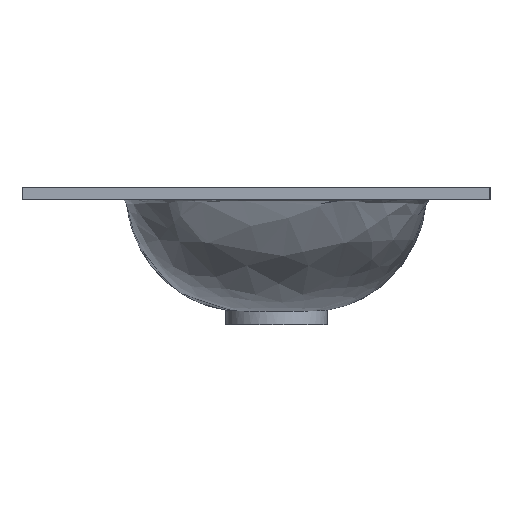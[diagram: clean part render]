
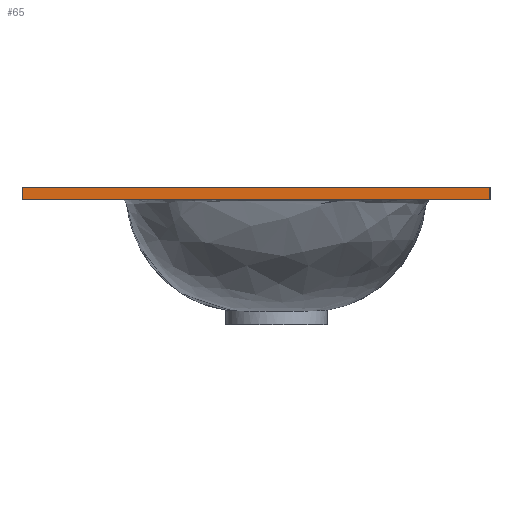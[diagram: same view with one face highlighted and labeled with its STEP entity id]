
A CAD part, left-side view. The second image highlights one B-rep face of the part: STEP entity #65.
In plain terms, the highlighted planar face has unit normal (-1, 0, 0).
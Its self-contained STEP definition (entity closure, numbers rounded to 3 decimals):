
#65=ADVANCED_FACE('',(#84),#77,.F.);
#77=PLANE('',#205);
#84=FACE_OUTER_BOUND('',#88,.T.);
#88=EDGE_LOOP('',(#117,#118,#119,#120));
#117=ORIENTED_EDGE('',*,*,#168,.T.);
#118=ORIENTED_EDGE('',*,*,#161,.F.);
#119=ORIENTED_EDGE('',*,*,#169,.F.);
#120=ORIENTED_EDGE('',*,*,#166,.T.);
#143=VERTEX_POINT('',#257);
#146=VERTEX_POINT('',#262);
#149=VERTEX_POINT('',#272);
#150=VERTEX_POINT('',#274);
#161=EDGE_CURVE('',#146,#143,#180,.T.);
#166=EDGE_CURVE('',#150,#149,#185,.T.);
#168=EDGE_CURVE('',#149,#143,#187,.T.);
#169=EDGE_CURVE('',#150,#146,#188,.T.);
#180=LINE('',#263,#192);
#185=LINE('',#273,#197);
#187=LINE('',#277,#199);
#188=LINE('',#278,#200);
#192=VECTOR('',#220,1.);
#197=VECTOR('',#229,1.);
#199=VECTOR('',#233,1.);
#200=VECTOR('',#234,1.);
#205=AXIS2_PLACEMENT_3D('',#279,#235,#236);
#220=DIRECTION('',(0.,0.,1.));
#229=DIRECTION('',(0.,0.,1.));
#233=DIRECTION('',(0.,1.,0.));
#234=DIRECTION('',(0.,1.,0.));
#235=DIRECTION('',(1.,0.,0.));
#236=DIRECTION('',(0.,0.,-1.));
#257=CARTESIAN_POINT('',(-301.,250.,0.));
#262=CARTESIAN_POINT('',(-301.,250.,-12.));
#263=CARTESIAN_POINT('',(-301.,250.,-200.));
#272=CARTESIAN_POINT('',(-301.,-210.,0.));
#273=CARTESIAN_POINT('',(-301.,-210.,-200.));
#274=CARTESIAN_POINT('',(-301.,-210.,-12.));
#277=CARTESIAN_POINT('',(-301.,-210.,0.));
#278=CARTESIAN_POINT('',(-301.,-210.,-12.));
#279=CARTESIAN_POINT('',(-301.,-210.,-200.));
